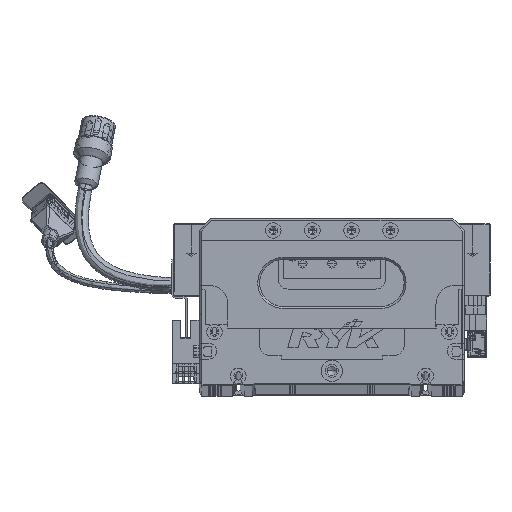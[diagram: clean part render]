
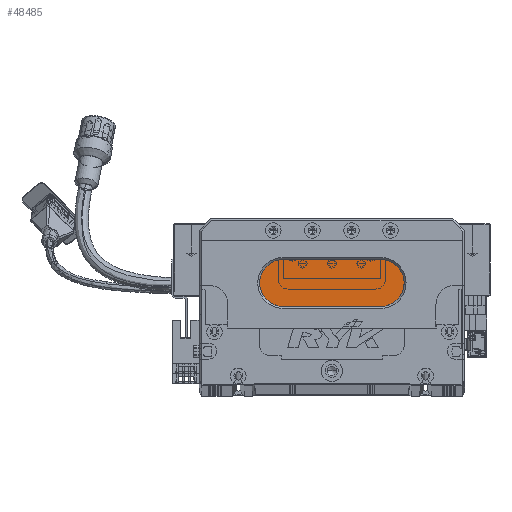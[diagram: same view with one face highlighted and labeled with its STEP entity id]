
A CAD part, top view. The second image highlights one B-rep face of the part: STEP entity #48485.
In plain terms, the highlighted planar face has unit normal (0, 0, 1) as drawn and (0, 0, -1) by its records, which use the part's own axes.
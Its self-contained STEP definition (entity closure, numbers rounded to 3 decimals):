
#1847 = LINE ( 'NONE', #85513, #124625 ) ;
#6480 = DIRECTION ( 'NONE',  ( -1., 0., 0. ) ) ;
#6766 = VERTEX_POINT ( 'NONE', #67517 ) ;
#11561 = EDGE_CURVE ( 'NONE', #6766, #137977, #1847, .T. ) ;
#12837 = EDGE_LOOP ( 'NONE', ( #135798, #27754, #17123, #19964, #46079 ) ) ;
#13915 = PLANE ( 'NONE',  #25562 ) ;
#17123 = ORIENTED_EDGE ( 'NONE', *, *, #41298, .T. ) ;
#19964 = ORIENTED_EDGE ( 'NONE', *, *, #111946, .T. ) ;
#25562 = AXIS2_PLACEMENT_3D ( 'NONE', #84912, #138851, #6480 ) ;
#27754 = ORIENTED_EDGE ( 'NONE', *, *, #130863, .T. ) ;
#31582 = CIRCLE ( 'NONE', #111671, 12. ) ;
#35880 = CARTESIAN_POINT ( 'NONE',  ( 43., 40., 13. ) ) ;
#41298 = EDGE_CURVE ( 'NONE', #127470, #116309, #69846, .T. ) ;
#44366 = CARTESIAN_POINT ( 'NONE',  ( 93., 40., 13. ) ) ;
#46079 = ORIENTED_EDGE ( 'NONE', *, *, #11561, .T. ) ;
#46213 = DIRECTION ( 'NONE',  ( -1., 0., 0. ) ) ;
#48485 = ADVANCED_FACE ( 'NONE', ( #100873 ), #13915, .T. ) ;
#52298 = AXIS2_PLACEMENT_3D ( 'NONE', #129414, #62847, #83407 ) ;
#57426 = DIRECTION ( 'NONE',  ( 0., 0., -1. ) ) ;
#62084 = DIRECTION ( 'NONE',  ( 1., 0., 0. ) ) ;
#62847 = DIRECTION ( 'NONE',  ( 0., 0., -1. ) ) ;
#67517 = CARTESIAN_POINT ( 'NONE',  ( 43., 64., 13. ) ) ;
#69846 = CIRCLE ( 'NONE', #118572, 12. ) ;
#78136 = DIRECTION ( 'NONE',  ( 0., 0., -1. ) ) ;
#83407 = DIRECTION ( 'NONE',  ( -1., 0., 0. ) ) ;
#84912 = CARTESIAN_POINT ( 'NONE',  ( 93., 52., 13. ) ) ;
#85513 = CARTESIAN_POINT ( 'NONE',  ( 93., 64., 13. ) ) ;
#88571 = VERTEX_POINT ( 'NONE', #95062 ) ;
#95062 = CARTESIAN_POINT ( 'NONE',  ( 93., 40., 13. ) ) ;
#96753 = CARTESIAN_POINT ( 'NONE',  ( 31., 52., 13. ) ) ;
#100873 = FACE_OUTER_BOUND ( 'NONE', #12837, .T. ) ;
#100965 = DIRECTION ( 'NONE',  ( -1., 0., 0. ) ) ;
#101551 = CARTESIAN_POINT ( 'NONE',  ( 93., 52., 13. ) ) ;
#102225 = VECTOR ( 'NONE', #133529, 1000. ) ;
#111671 = AXIS2_PLACEMENT_3D ( 'NONE', #101551, #78136, #46213 ) ;
#111946 = EDGE_CURVE ( 'NONE', #116309, #6766, #114919, .T. ) ;
#113216 = CARTESIAN_POINT ( 'NONE',  ( 43., 52., 13. ) ) ;
#114919 = CIRCLE ( 'NONE', #52298, 12. ) ;
#116309 = VERTEX_POINT ( 'NONE', #96753 ) ;
#116596 = EDGE_CURVE ( 'NONE', #137977, #88571, #31582, .T. ) ;
#118572 = AXIS2_PLACEMENT_3D ( 'NONE', #113216, #57426, #100965 ) ;
#124625 = VECTOR ( 'NONE', #62084, 1000. ) ;
#127470 = VERTEX_POINT ( 'NONE', #35880 ) ;
#128882 = CARTESIAN_POINT ( 'NONE',  ( 93., 64., 13. ) ) ;
#129414 = CARTESIAN_POINT ( 'NONE',  ( 43., 52., 13. ) ) ;
#130863 = EDGE_CURVE ( 'NONE', #88571, #127470, #139090, .T. ) ;
#133529 = DIRECTION ( 'NONE',  ( -1., 0., 0. ) ) ;
#135798 = ORIENTED_EDGE ( 'NONE', *, *, #116596, .T. ) ;
#137977 = VERTEX_POINT ( 'NONE', #128882 ) ;
#138851 = DIRECTION ( 'NONE',  ( 0., 0., -1. ) ) ;
#139090 = LINE ( 'NONE', #44366, #102225 ) ;
